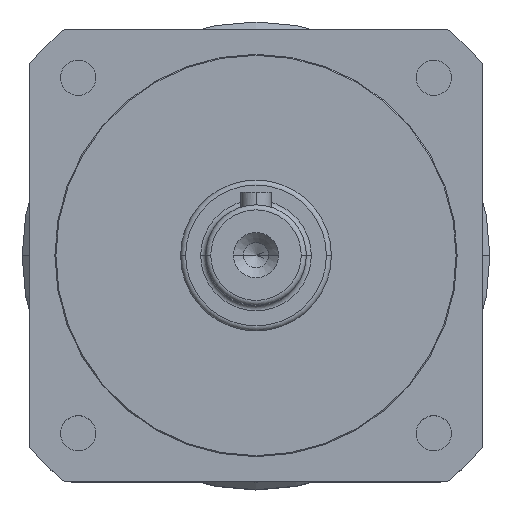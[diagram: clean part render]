
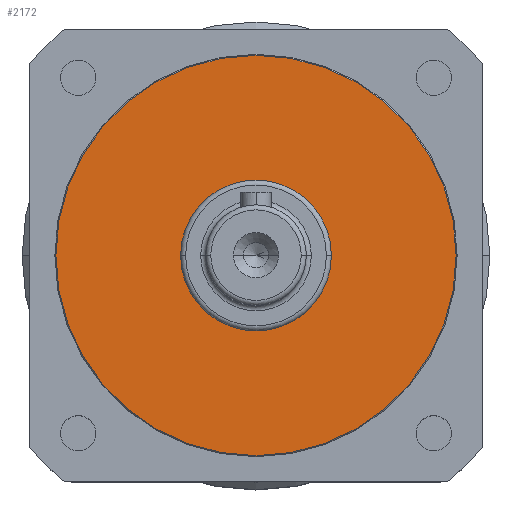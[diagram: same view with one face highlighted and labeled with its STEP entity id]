
A CAD part, top view. The second image highlights one B-rep face of the part: STEP entity #2172.
In plain terms, the highlighted planar face has unit normal (0, 0, 1).
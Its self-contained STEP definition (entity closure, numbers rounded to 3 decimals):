
#12 = CARTESIAN_POINT ( 'NONE',  ( -15., 0., 12.5 ) ) ;
#34 = CARTESIAN_POINT ( 'NONE',  ( 0., 0., 12.5 ) ) ;
#80 = DIRECTION ( 'NONE',  ( 0., 0., 1. ) ) ;
#106 = EDGE_CURVE ( 'NONE', #2100, #1519, #341, .T. ) ;
#162 = CARTESIAN_POINT ( 'NONE',  ( 0., 0., 12.5 ) ) ;
#213 = CARTESIAN_POINT ( 'NONE',  ( 15., 0., 12.5 ) ) ;
#282 = ORIENTED_EDGE ( 'NONE', *, *, #1458, .F. ) ;
#341 = CIRCLE ( 'NONE', #2999, 15. ) ;
#468 = AXIS2_PLACEMENT_3D ( 'NONE', #2557, #1322, #2764 ) ;
#493 = DIRECTION ( 'NONE',  ( 0., 0., 1. ) ) ;
#671 = FACE_BOUND ( 'NONE', #2033, .T. ) ;
#795 = DIRECTION ( 'NONE',  ( 1., 0., 0. ) ) ;
#819 = DIRECTION ( 'NONE',  ( 0., 0., 1. ) ) ;
#828 = CARTESIAN_POINT ( 'NONE',  ( 39.8, 0., 12.5 ) ) ;
#943 = FACE_OUTER_BOUND ( 'NONE', #2411, .T. ) ;
#1034 = EDGE_CURVE ( 'NONE', #2217, #1070, #2872, .T. ) ;
#1070 = VERTEX_POINT ( 'NONE', #1524 ) ;
#1113 = CARTESIAN_POINT ( 'NONE',  ( 0., 0., 12.5 ) ) ;
#1123 = DIRECTION ( 'NONE',  ( 1., 0., 0. ) ) ;
#1322 = DIRECTION ( 'NONE',  ( 0., 0., 1. ) ) ;
#1365 = EDGE_CURVE ( 'NONE', #1070, #2217, #2540, .T. ) ;
#1458 = EDGE_CURVE ( 'NONE', #1519, #2100, #2108, .T. ) ;
#1474 = DIRECTION ( 'NONE',  ( 1., 0., 0. ) ) ;
#1519 = VERTEX_POINT ( 'NONE', #12 ) ;
#1524 = CARTESIAN_POINT ( 'NONE',  ( -39.8, 0., 12.5 ) ) ;
#1566 = ORIENTED_EDGE ( 'NONE', *, *, #1034, .T. ) ;
#1567 = PLANE ( 'NONE',  #2324 ) ;
#2033 = EDGE_LOOP ( 'NONE', ( #2423, #282 ) ) ;
#2067 = DIRECTION ( 'NONE',  ( 1., 0., 0. ) ) ;
#2087 = AXIS2_PLACEMENT_3D ( 'NONE', #2789, #819, #795 ) ;
#2100 = VERTEX_POINT ( 'NONE', #213 ) ;
#2108 = CIRCLE ( 'NONE', #2348, 15. ) ;
#2172 = ADVANCED_FACE ( 'NONE', ( #671, #943 ), #1567, .T. ) ;
#2217 = VERTEX_POINT ( 'NONE', #828 ) ;
#2324 = AXIS2_PLACEMENT_3D ( 'NONE', #1113, #80, #2067 ) ;
#2348 = AXIS2_PLACEMENT_3D ( 'NONE', #34, #493, #1474 ) ;
#2411 = EDGE_LOOP ( 'NONE', ( #2419, #1566 ) ) ;
#2419 = ORIENTED_EDGE ( 'NONE', *, *, #1365, .T. ) ;
#2423 = ORIENTED_EDGE ( 'NONE', *, *, #106, .F. ) ;
#2540 = CIRCLE ( 'NONE', #468, 39.8 ) ;
#2557 = CARTESIAN_POINT ( 'NONE',  ( 0., 0., 12.5 ) ) ;
#2764 = DIRECTION ( 'NONE',  ( 1., 0., 0. ) ) ;
#2789 = CARTESIAN_POINT ( 'NONE',  ( 0., 0., 12.5 ) ) ;
#2872 = CIRCLE ( 'NONE', #2087, 39.8 ) ;
#2886 = DIRECTION ( 'NONE',  ( 0., 0., 1. ) ) ;
#2999 = AXIS2_PLACEMENT_3D ( 'NONE', #162, #2886, #1123 ) ;
